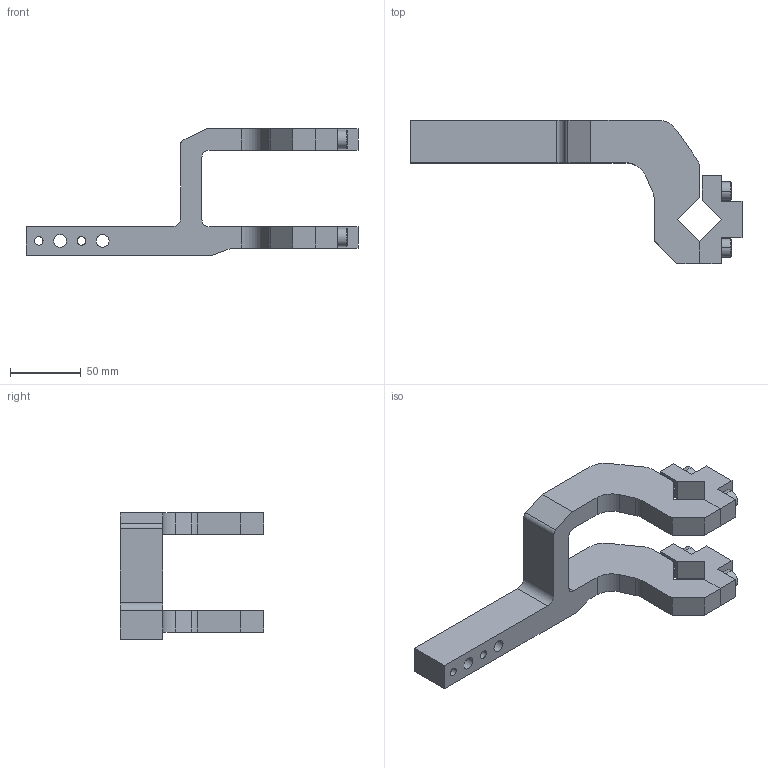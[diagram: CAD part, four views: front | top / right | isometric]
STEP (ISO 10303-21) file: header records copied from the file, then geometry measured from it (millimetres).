
FILE_DESCRIPTION((''),'2;1');
FILE_NAME('S:\Matthew\Step Files\XM Clamp Arms\XJ63-CAR-05.stp','2006-06-28T08:18:54',('Matthew'),(''),'Autodesk Inventor 8','Autodesk Inventor 8','');
FILE_SCHEMA(('AUTOMOTIVE_DESIGN { 1 0 10303 214 1 1 1 1 }'));
Length unit declared in the file: millimetre
Products named in the file (4): XJ63-CAR-05; XJ63-CAR-051; XJ63-CAR-052; XJ63-CAR-053
Assembly tree (3 placements, depth 2):
  XJ63-CAR-05
    XJ63-CAR-051
    XJ63-CAR-052
    XJ63-CAR-053
Bounding box: 234 x 101 x 89 mm (x, y, z)
Volume: 252028.7 mm3; surface area: 61396.4 mm2
Topology: 3 solids, 3 shells, 155 faces, 395 edges, 254 vertices
Faces by surface type: plane 93, bspline 32, cylinder 22, cone 8
Entity records: 5140 total; most frequent: CARTESIAN_POINT 1347, ORIENTED_EDGE 774, DIRECTION 747, EDGE_CURVE 387, VECTOR 287, LINE 287, VERTEX_POINT 254, AXIS2_PLACEMENT_3D 230
